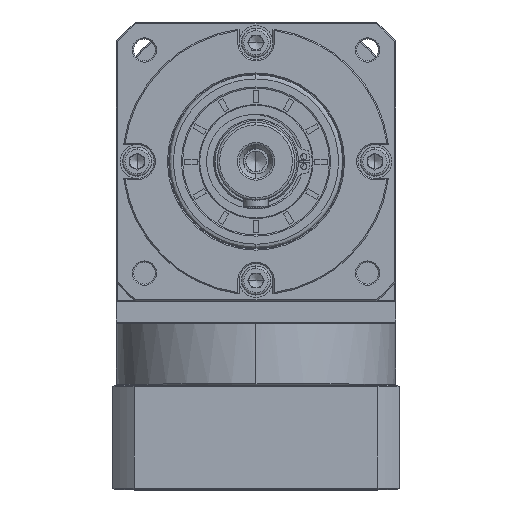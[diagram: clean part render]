
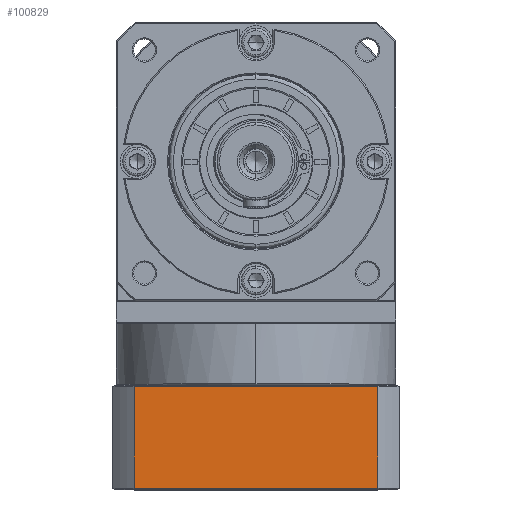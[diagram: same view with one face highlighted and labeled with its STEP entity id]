
A CAD part, top view. The second image highlights one B-rep face of the part: STEP entity #100829.
In plain terms, the highlighted planar face has unit normal (0, 0, 1).
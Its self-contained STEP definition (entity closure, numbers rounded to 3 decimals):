
#8061 = VECTOR ( 'NONE', #67790, 1000. ) ;
#8316 = DIRECTION ( 'NONE',  ( 0., 0., -1. ) ) ;
#9011 = DIRECTION ( 'NONE',  ( 1., 0., 0. ) ) ;
#22489 = VECTOR ( 'NONE', #9011, 1000. ) ;
#24638 = CARTESIAN_POINT ( 'NONE',  ( -132.016, -154.518, 115.097 ) ) ;
#27601 = DIRECTION ( 'NONE',  ( 0., -1., 0. ) ) ;
#34756 = PLANE ( 'NONE',  #134138 ) ;
#39352 = ORIENTED_EDGE ( 'NONE', *, *, #133506, .F. ) ;
#43020 = CARTESIAN_POINT ( 'NONE',  ( -132.016, -112.518, 115.097 ) ) ;
#43778 = EDGE_CURVE ( 'NONE', #142212, #157750, #79472, .T. ) ;
#46267 = ORIENTED_EDGE ( 'NONE', *, *, #123796, .F. ) ;
#48427 = CARTESIAN_POINT ( 'NONE',  ( -241.268, -112.518, 115.097 ) ) ;
#49950 = VERTEX_POINT ( 'NONE', #43020 ) ;
#58181 = LINE ( 'NONE', #48427, #22489 ) ;
#58306 = VECTOR ( 'NONE', #27601, 1000. ) ;
#63440 = EDGE_LOOP ( 'NONE', ( #140386, #39352, #155452, #46267 ) ) ;
#64004 = CARTESIAN_POINT ( 'NONE',  ( -241.268, -154.518, 115.097 ) ) ;
#67790 = DIRECTION ( 'NONE',  ( 0., 1., 0. ) ) ;
#68571 = VERTEX_POINT ( 'NONE', #24638 ) ;
#77476 = DIRECTION ( 'NONE',  ( -1., 0., 0. ) ) ;
#78926 = CARTESIAN_POINT ( 'NONE',  ( -232.519, -154.518, 115.097 ) ) ;
#79472 = LINE ( 'NONE', #161816, #8061 ) ;
#88755 = CARTESIAN_POINT ( 'NONE',  ( -241.268, -155.018, 115.097 ) ) ;
#94465 = CARTESIAN_POINT ( 'NONE',  ( -132.016, 109.377, 115.097 ) ) ;
#98212 = LINE ( 'NONE', #94465, #58306 ) ;
#100829 = ADVANCED_FACE ( 'NONE', ( #119434 ), #34756, .F. ) ;
#102270 = DIRECTION ( 'NONE',  ( -1., 0., 0. ) ) ;
#119434 = FACE_OUTER_BOUND ( 'NONE', #63440, .T. ) ;
#123796 = EDGE_CURVE ( 'NONE', #68571, #142212, #146120, .T. ) ;
#128975 = CARTESIAN_POINT ( 'NONE',  ( -232.519, -112.518, 115.097 ) ) ;
#133506 = EDGE_CURVE ( 'NONE', #157750, #49950, #58181, .T. ) ;
#134138 = AXIS2_PLACEMENT_3D ( 'NONE', #88755, #8316, #102270 ) ;
#140386 = ORIENTED_EDGE ( 'NONE', *, *, #165342, .F. ) ;
#141941 = VECTOR ( 'NONE', #77476, 1000. ) ;
#142212 = VERTEX_POINT ( 'NONE', #78926 ) ;
#146120 = LINE ( 'NONE', #64004, #141941 ) ;
#155452 = ORIENTED_EDGE ( 'NONE', *, *, #43778, .F. ) ;
#157750 = VERTEX_POINT ( 'NONE', #128975 ) ;
#161816 = CARTESIAN_POINT ( 'NONE',  ( -232.519, -155.018, 115.097 ) ) ;
#165342 = EDGE_CURVE ( 'NONE', #49950, #68571, #98212, .T. ) ;
